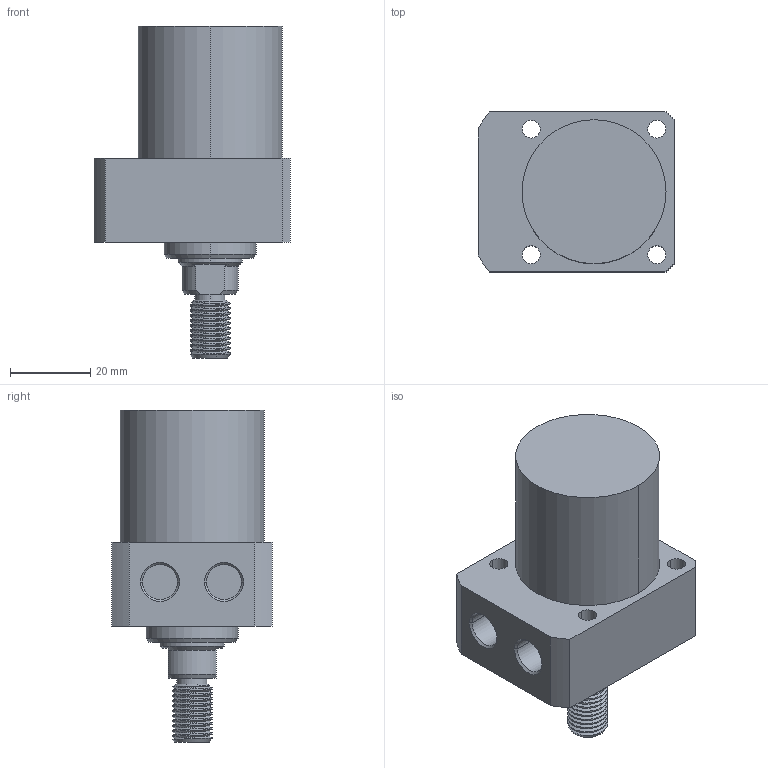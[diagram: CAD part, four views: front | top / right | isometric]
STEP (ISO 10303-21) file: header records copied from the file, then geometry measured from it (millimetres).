
FILE_DESCRIPTION((' '),'2;1');
FILE_NAME( 'TLLR-036CT-025.STEP.stp', '2025-10-24T16:35:46', (' '), ('--- Datakit www.datakit.com---'), ' Datakit CrossCadWare V2024.1 Dec 21 2023', 'Mastercam 2025', ' ');
FILE_SCHEMA(('AUTOMOTIVE_DESIGN { 1 0 10303 214 1 1 1 1 }'));
Length unit declared in the file: millimetre
Products named in the file (1): TLLR-036CT-025
Bounding box: 49 x 40 x 83 mm (x, y, z)
Volume: 75604.5 mm3; surface area: 14396.7 mm2
Topology: 1 solids, 1 shells, 87 faces, 291 edges, 214 vertices
Faces by surface type: cylinder 50, plane 21, cone 14, bspline 2
Entity records: 7353 total; most frequent: CARTESIAN_POINT 4726, ORIENTED_EDGE 582, DIRECTION 466, EDGE_CURVE 291, VERTEX_POINT 214, AXIS2_PLACEMENT_3D 188, EDGE_LOOP 103, CIRCLE 102
